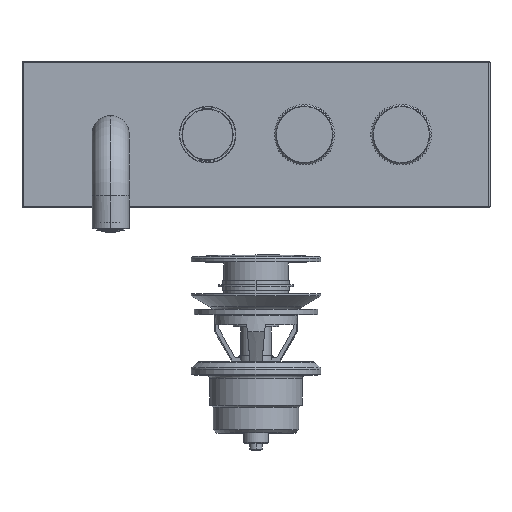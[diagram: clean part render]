
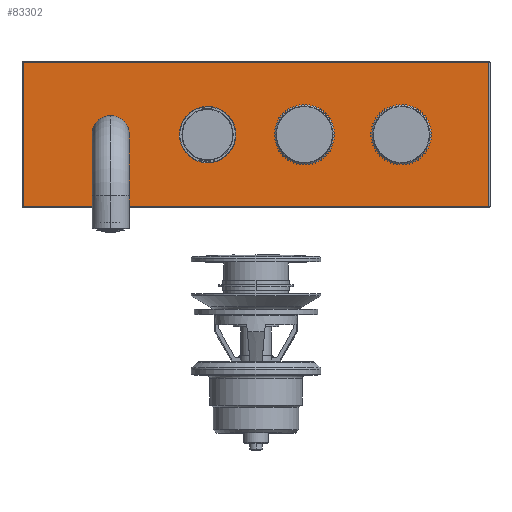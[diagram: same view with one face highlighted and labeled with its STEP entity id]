
A CAD part, top view. The second image highlights one B-rep face of the part: STEP entity #83302.
In plain terms, the highlighted planar face has unit normal (0, 0, 1).
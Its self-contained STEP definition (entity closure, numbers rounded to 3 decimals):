
#19054=DIRECTION('',(-1.,0.,0.));
#19055=VECTOR('',#19054,226.);
#19056=CARTESIAN_POINT('',(113.,35.,92.5));
#19057=LINE('',#19056,#19055);
#19058=DIRECTION('',(0.,1.,0.));
#19059=VECTOR('',#19058,70.);
#19060=CARTESIAN_POINT('',(113.,-35.,92.5));
#19061=LINE('',#19060,#19059);
#19062=DIRECTION('',(1.,0.,0.));
#19063=VECTOR('',#19062,226.);
#19064=CARTESIAN_POINT('',(-113.,-35.,92.5));
#19065=LINE('',#19064,#19063);
#19066=DIRECTION('',(0.,-1.,0.));
#19067=VECTOR('',#19066,70.);
#19068=CARTESIAN_POINT('',(-113.,35.,92.5));
#19069=LINE('',#19068,#19067);
#19070=CARTESIAN_POINT('',(-23.5,0.,92.5));
#19071=DIRECTION('',(0.,0.,-1.));
#19072=DIRECTION('',(-1.,0.,0.));
#19073=AXIS2_PLACEMENT_3D('',#19070,#19071,#19072);
#19075=CARTESIAN_POINT('',(-23.5,0.,92.5));
#19076=DIRECTION('',(0.,0.,-1.));
#19077=DIRECTION('',(1.,0.,0.));
#19078=AXIS2_PLACEMENT_3D('',#19075,#19076,#19077);
#19080=CARTESIAN_POINT('',(70.5,0.,92.5));
#19081=DIRECTION('',(0.,0.,-1.));
#19082=DIRECTION('',(-1.,0.,0.));
#19083=AXIS2_PLACEMENT_3D('',#19080,#19081,#19082);
#19085=CARTESIAN_POINT('',(70.5,0.,92.5));
#19086=DIRECTION('',(0.,0.,-1.));
#19087=DIRECTION('',(1.,0.,0.));
#19088=AXIS2_PLACEMENT_3D('',#19085,#19086,#19087);
#19090=CARTESIAN_POINT('',(23.5,0.,92.5));
#19091=DIRECTION('',(0.,0.,-1.));
#19092=DIRECTION('',(-1.,0.,0.));
#19093=AXIS2_PLACEMENT_3D('',#19090,#19091,#19092);
#19095=CARTESIAN_POINT('',(23.5,0.,92.5));
#19096=DIRECTION('',(0.,0.,-1.));
#19097=DIRECTION('',(1.,0.,0.));
#19098=AXIS2_PLACEMENT_3D('',#19095,#19096,#19097);
#19100=CARTESIAN_POINT('',(-70.5,0.,92.5));
#19101=DIRECTION('',(0.,0.,1.));
#19102=DIRECTION('',(0.,1.,0.));
#19103=AXIS2_PLACEMENT_3D('',#19100,#19101,#19102);
#19105=CARTESIAN_POINT('',(-70.5,0.,92.5));
#19106=DIRECTION('',(0.,0.,1.));
#19107=DIRECTION('',(0.,-1.,0.));
#19108=AXIS2_PLACEMENT_3D('',#19105,#19106,#19107);
#60063=CARTESIAN_POINT('',(113.,35.,92.5));
#60064=CARTESIAN_POINT('',(-113.,35.,92.5));
#60065=VERTEX_POINT('',#60063);
#60066=VERTEX_POINT('',#60064);
#60079=CARTESIAN_POINT('',(-113.,-35.,92.5));
#60080=VERTEX_POINT('',#60079);
#60089=CARTESIAN_POINT('',(113.,-35.,92.5));
#60090=VERTEX_POINT('',#60089);
#60211=CARTESIAN_POINT('',(-37.2,0.,92.5));
#60212=CARTESIAN_POINT('',(-9.8,0.,92.5));
#60213=VERTEX_POINT('',#60211);
#60214=VERTEX_POINT('',#60212);
#60219=CARTESIAN_POINT('',(63.3,0.,92.5));
#60220=CARTESIAN_POINT('',(77.7,0.,92.5));
#60221=VERTEX_POINT('',#60219);
#60222=VERTEX_POINT('',#60220);
#60235=CARTESIAN_POINT('',(16.3,0.,92.5));
#60236=CARTESIAN_POINT('',(30.7,0.,92.5));
#60237=VERTEX_POINT('',#60235);
#60238=VERTEX_POINT('',#60236);
#60949=CARTESIAN_POINT('',(-70.5,8.8,92.5));
#60950=CARTESIAN_POINT('',(-70.5,-8.8,92.5));
#60951=VERTEX_POINT('',#60949);
#60952=VERTEX_POINT('',#60950);
#83264=CARTESIAN_POINT('',(0.,0.,92.5));
#83265=DIRECTION('',(0.,0.,1.));
#83266=DIRECTION('',(1.,0.,0.));
#83267=AXIS2_PLACEMENT_3D('',#83264,#83265,#83266);
#83268=PLANE('',#83267);
#83270=ORIENTED_EDGE('',*,*,#83269,.F.);
#83272=ORIENTED_EDGE('',*,*,#83271,.F.);
#83274=ORIENTED_EDGE('',*,*,#83273,.F.);
#83276=ORIENTED_EDGE('',*,*,#83275,.F.);
#83277=EDGE_LOOP('',(#83270,#83272,#83274,#83276));
#83278=FACE_OUTER_BOUND('',#83277,.F.);
#83280=ORIENTED_EDGE('',*,*,#83279,.F.);
#83282=ORIENTED_EDGE('',*,*,#83281,.F.);
#83283=EDGE_LOOP('',(#83280,#83282));
#83284=FACE_BOUND('',#83283,.F.);
#83286=ORIENTED_EDGE('',*,*,#83285,.F.);
#83288=ORIENTED_EDGE('',*,*,#83287,.F.);
#83289=EDGE_LOOP('',(#83286,#83288));
#83290=FACE_BOUND('',#83289,.F.);
#83292=ORIENTED_EDGE('',*,*,#83291,.F.);
#83294=ORIENTED_EDGE('',*,*,#83293,.F.);
#83295=EDGE_LOOP('',(#83292,#83294));
#83296=FACE_BOUND('',#83295,.F.);
#83298=ORIENTED_EDGE('',*,*,#83297,.T.);
#83299=ORIENTED_EDGE('',*,*,#83254,.T.);
#83300=EDGE_LOOP('',(#83298,#83299));
#83301=FACE_BOUND('',#83300,.F.);
#83302=ADVANCED_FACE('',(#83278,#83284,#83290,#83296,#83301),#83268,.T.);
#19074=CIRCLE('',#19073,13.7);
#19079=CIRCLE('',#19078,13.7);
#19084=CIRCLE('',#19083,7.2);
#19089=CIRCLE('',#19088,7.2);
#19094=CIRCLE('',#19093,7.2);
#19099=CIRCLE('',#19098,7.2);
#19104=CIRCLE('',#19103,8.8);
#19109=CIRCLE('',#19108,8.8);
#83254=EDGE_CURVE('',#60952,#60951,#19109,.T.);
#83269=EDGE_CURVE('',#60065,#60066,#19057,.T.);
#83271=EDGE_CURVE('',#60090,#60065,#19061,.T.);
#83273=EDGE_CURVE('',#60080,#60090,#19065,.T.);
#83275=EDGE_CURVE('',#60066,#60080,#19069,.T.);
#83279=EDGE_CURVE('',#60213,#60214,#19074,.T.);
#83281=EDGE_CURVE('',#60214,#60213,#19079,.T.);
#83285=EDGE_CURVE('',#60221,#60222,#19084,.T.);
#83287=EDGE_CURVE('',#60222,#60221,#19089,.T.);
#83291=EDGE_CURVE('',#60237,#60238,#19094,.T.);
#83293=EDGE_CURVE('',#60238,#60237,#19099,.T.);
#83297=EDGE_CURVE('',#60951,#60952,#19104,.T.);
